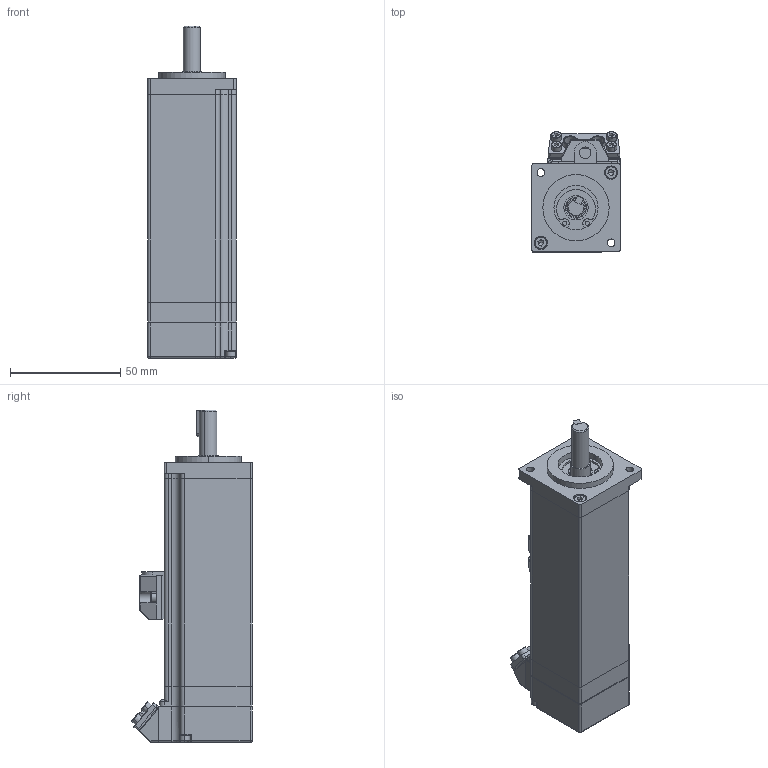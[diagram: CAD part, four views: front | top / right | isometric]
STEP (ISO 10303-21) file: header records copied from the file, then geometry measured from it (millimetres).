
FILE_DESCRIPTION (( 'STEP AP203' ), '1' );
FILE_NAME ('9.6942SS(SMC40S-0010-30MBK-5LSU)-V1.0.STEP', '2018-09-07T06:57:40', ( '' ), ( '' ), 'SwSTEP 2.0', 'SolidWorks 2008', '' );
FILE_SCHEMA (( 'CONFIG_CONTROL_DESIGN' ));
Length unit declared in the file: millimetre
Products named in the file (1): 9.6942SS(SMC40S-0010-30MBK-5LSU)-V1.0
Bounding box: 40 x 54.65 x 150.4 mm (x, y, z)
Surface area: 30199 mm2 (no closed solid volume)
Topology: 0 solids, 30 shells, 425 faces, 1294 edges, 863 vertices
Faces by surface type: plane 197, cylinder 160, bspline 43, cone 25
Entity records: 15812 total; most frequent: CARTESIAN_POINT 4508, DIRECTION 2383, ORIENTED_EDGE 2103, EDGE_CURVE 1268, VERTEX_POINT 863, AXIS2_PLACEMENT_3D 848, LINE 687, VECTOR 687
